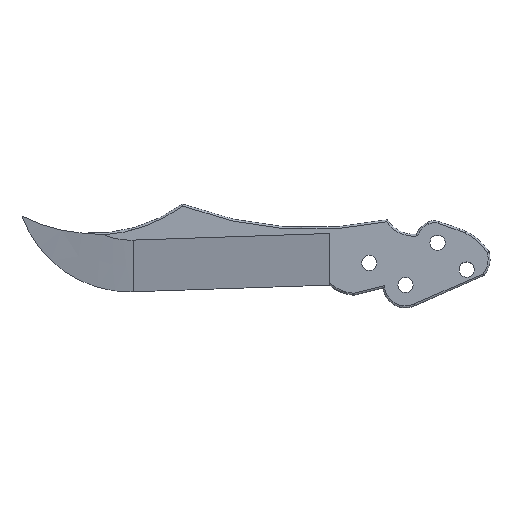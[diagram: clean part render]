
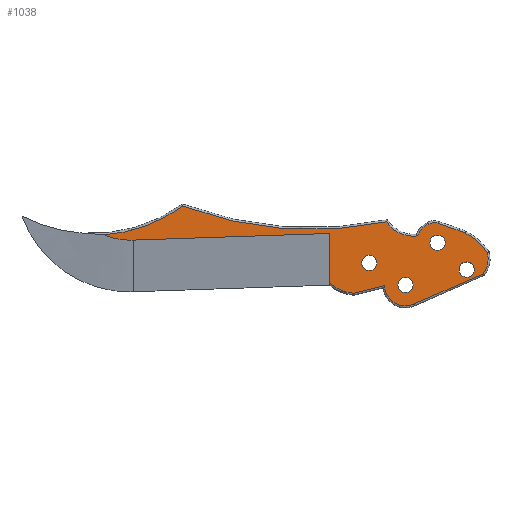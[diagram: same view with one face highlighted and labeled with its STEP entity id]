
A CAD part, top view. The second image highlights one B-rep face of the part: STEP entity #1038.
In plain terms, the highlighted planar face has unit normal (0, 0, 1).
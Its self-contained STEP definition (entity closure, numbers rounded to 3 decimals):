
#21=FACE_BOUND('',#314,.T.);
#22=FACE_BOUND('',#315,.T.);
#23=FACE_BOUND('',#316,.T.);
#24=FACE_BOUND('',#317,.T.);
#34=PLANE('',#1214);
#76=LINE('',#1878,#125);
#77=LINE('',#1889,#126);
#78=LINE('',#1921,#127);
#79=LINE('',#1924,#128);
#83=LINE('',#1958,#132);
#89=LINE('',#1993,#138);
#125=VECTOR('',#1444,10.);
#126=VECTOR('',#1461,10.);
#127=VECTOR('',#1488,10.);
#128=VECTOR('',#1491,10.);
#132=VECTOR('',#1525,10.);
#138=VECTOR('',#1549,10.);
#240=FACE_OUTER_BOUND('',#313,.T.);
#313=EDGE_LOOP('',(#932,#933,#934,#935,#936,#937,#938,#939,#940,#941,#942,
#943,#944,#945,#946,#947));
#314=EDGE_LOOP('',(#948));
#315=EDGE_LOOP('',(#949));
#316=EDGE_LOOP('',(#950));
#317=EDGE_LOOP('',(#951));
#370=CIRCLE('',#1148,40.5);
#373=CIRCLE('',#1152,95.5);
#374=CIRCLE('',#1154,8.5);
#378=CIRCLE('',#1160,3.417);
#379=CIRCLE('',#1162,5.5);
#384=CIRCLE('',#1169,14.5);
#387=CIRCLE('',#1173,6.5);
#389=CIRCLE('',#1176,5.5);
#394=CIRCLE('',#1188,10.5);
#402=CIRCLE('',#1202,16.425);
#403=CIRCLE('',#1207,2.);
#404=CIRCLE('',#1209,2.);
#405=CIRCLE('',#1211,2.);
#406=CIRCLE('',#1213,2.);
#472=VERTEX_POINT('',#1824);
#473=VERTEX_POINT('',#1835);
#474=VERTEX_POINT('',#1840);
#475=VERTEX_POINT('',#1857);
#476=VERTEX_POINT('',#1874);
#477=VERTEX_POINT('',#1876);
#478=VERTEX_POINT('',#1880);
#479=VERTEX_POINT('',#1886);
#480=VERTEX_POINT('',#1891);
#481=VERTEX_POINT('',#1896);
#482=VERTEX_POINT('',#1901);
#483=VERTEX_POINT('',#1903);
#484=VERTEX_POINT('',#1923);
#485=VERTEX_POINT('',#1931);
#489=VERTEX_POINT('',#1957);
#497=VERTEX_POINT('',#1989);
#498=VERTEX_POINT('',#1999);
#499=VERTEX_POINT('',#2003);
#500=VERTEX_POINT('',#2007);
#501=VERTEX_POINT('',#2011);
#591=EDGE_CURVE('',#472,#473,#370,.T.);
#594=EDGE_CURVE('',#473,#474,#373,.T.);
#596=EDGE_CURVE('',#474,#475,#374,.T.);
#600=EDGE_CURVE('',#477,#476,#76,.T.);
#602=EDGE_CURVE('',#478,#477,#378,.T.);
#603=EDGE_CURVE('',#475,#478,#379,.T.);
#606=EDGE_CURVE('',#476,#479,#77,.T.);
#609=EDGE_CURVE('',#479,#480,#384,.T.);
#612=EDGE_CURVE('',#480,#481,#387,.T.);
#614=EDGE_CURVE('',#482,#483,#389,.T.);
#617=EDGE_CURVE('',#481,#482,#78,.T.);
#618=EDGE_CURVE('',#483,#484,#79,.T.);
#623=EDGE_CURVE('',#484,#485,#394,.T.);
#628=EDGE_CURVE('',#489,#485,#83,.T.);
#640=EDGE_CURVE('',#472,#497,#402,.T.);
#641=EDGE_CURVE('',#497,#489,#89,.T.);
#644=EDGE_CURVE('',#498,#498,#403,.T.);
#646=EDGE_CURVE('',#499,#499,#404,.T.);
#648=EDGE_CURVE('',#500,#500,#405,.T.);
#650=EDGE_CURVE('',#501,#501,#406,.T.);
#932=ORIENTED_EDGE('',*,*,#591,.F.);
#933=ORIENTED_EDGE('',*,*,#640,.T.);
#934=ORIENTED_EDGE('',*,*,#641,.T.);
#935=ORIENTED_EDGE('',*,*,#628,.T.);
#936=ORIENTED_EDGE('',*,*,#623,.F.);
#937=ORIENTED_EDGE('',*,*,#618,.F.);
#938=ORIENTED_EDGE('',*,*,#614,.F.);
#939=ORIENTED_EDGE('',*,*,#617,.F.);
#940=ORIENTED_EDGE('',*,*,#612,.F.);
#941=ORIENTED_EDGE('',*,*,#609,.F.);
#942=ORIENTED_EDGE('',*,*,#606,.F.);
#943=ORIENTED_EDGE('',*,*,#600,.F.);
#944=ORIENTED_EDGE('',*,*,#602,.F.);
#945=ORIENTED_EDGE('',*,*,#603,.F.);
#946=ORIENTED_EDGE('',*,*,#596,.F.);
#947=ORIENTED_EDGE('',*,*,#594,.F.);
#948=ORIENTED_EDGE('',*,*,#650,.T.);
#949=ORIENTED_EDGE('',*,*,#648,.T.);
#950=ORIENTED_EDGE('',*,*,#646,.T.);
#951=ORIENTED_EDGE('',*,*,#644,.T.);
#1038=ADVANCED_FACE('',(#240,#21,#22,#23,#24),#34,.T.);
#1148=AXIS2_PLACEMENT_3D('',#1836,#1424,#1425);
#1152=AXIS2_PLACEMENT_3D('',#1841,#1432,#1433);
#1154=AXIS2_PLACEMENT_3D('',#1858,#1436,#1437);
#1160=AXIS2_PLACEMENT_3D('',#1882,#1449,#1450);
#1162=AXIS2_PLACEMENT_3D('',#1884,#1453,#1454);
#1169=AXIS2_PLACEMENT_3D('',#1894,#1468,#1469);
#1173=AXIS2_PLACEMENT_3D('',#1899,#1476,#1477);
#1176=AXIS2_PLACEMENT_3D('',#1904,#1482,#1483);
#1188=AXIS2_PLACEMENT_3D('',#1946,#1508,#1509);
#1202=AXIS2_PLACEMENT_3D('',#1991,#1545,#1546);
#1207=AXIS2_PLACEMENT_3D('',#2000,#1558,#1559);
#1209=AXIS2_PLACEMENT_3D('',#2004,#1563,#1564);
#1211=AXIS2_PLACEMENT_3D('',#2008,#1568,#1569);
#1213=AXIS2_PLACEMENT_3D('',#2012,#1573,#1574);
#1214=AXIS2_PLACEMENT_3D('',#2014,#1576,#1577);
#1424=DIRECTION('center_axis',(0.,0.,1.));
#1425=DIRECTION('ref_axis',(0.334,-0.943,0.));
#1432=DIRECTION('center_axis',(0.,0.,1.));
#1433=DIRECTION('ref_axis',(-0.075,-0.997,0.));
#1436=DIRECTION('center_axis',(0.,0.,1.));
#1437=DIRECTION('ref_axis',(-0.446,-0.895,0.));
#1444=DIRECTION('',(0.946,-0.326,0.));
#1449=DIRECTION('center_axis',(0.,0.,-1.));
#1450=DIRECTION('ref_axis',(-0.065,0.998,0.));
#1453=DIRECTION('center_axis',(0.,0.,-1.));
#1454=DIRECTION('ref_axis',(-0.732,0.681,0.));
#1461=DIRECTION('',(0.926,-0.377,0.));
#1468=DIRECTION('center_axis',(0.,0.,-1.));
#1469=DIRECTION('ref_axis',(0.656,0.755,0.));
#1476=DIRECTION('center_axis',(0.,0.,-1.));
#1477=DIRECTION('ref_axis',(0.982,-0.191,0.));
#1482=DIRECTION('center_axis',(0.,0.,-1.));
#1483=DIRECTION('ref_axis',(-0.491,-0.871,0.));
#1488=DIRECTION('',(-0.916,-0.402,0.));
#1491=DIRECTION('',(-0.971,-0.238,0.));
#1508=DIRECTION('center_axis',(0.,0.,-1.));
#1509=DIRECTION('ref_axis',(-0.388,-0.921,0.));
#1525=DIRECTION('',(0.,-1.,0.));
#1545=DIRECTION('center_axis',(0.,0.,1.));
#1546=DIRECTION('ref_axis',(0.062,-0.998,0.));
#1549=DIRECTION('',(0.999,0.034,0.));
#1558=DIRECTION('center_axis',(0.,0.,-1.));
#1559=DIRECTION('ref_axis',(-1.,0.,0.));
#1563=DIRECTION('center_axis',(0.,0.,-1.));
#1564=DIRECTION('ref_axis',(-1.,0.,0.));
#1568=DIRECTION('center_axis',(0.,0.,-1.));
#1569=DIRECTION('ref_axis',(-1.,0.,0.));
#1573=DIRECTION('center_axis',(0.,0.,-1.));
#1574=DIRECTION('ref_axis',(-1.,0.,0.));
#1576=DIRECTION('center_axis',(0.,0.,1.));
#1577=DIRECTION('ref_axis',(1.,0.,0.));
#1824=CARTESIAN_POINT('',(42.428,-100.855,2.5));
#1835=CARTESIAN_POINT('',(63.12,-93.261,2.5));
#1836=CARTESIAN_POINT('Origin',(39.346,-60.473,2.5));
#1840=CARTESIAN_POINT('',(116.787,-97.415,2.5));
#1841=CARTESIAN_POINT('Origin',(97.025,-3.982,2.5));
#1857=CARTESIAN_POINT('',(125.008,-101.119,2.5));
#1858=CARTESIAN_POINT('Origin',(123.857,-92.697,2.5));
#1874=CARTESIAN_POINT('',(135.887,-99.723,2.5));
#1876=CARTESIAN_POINT('',(130.389,-97.83,2.5));
#1878=CARTESIAN_POINT('',(113.015,-91.847,2.5));
#1880=CARTESIAN_POINT('',(127.757,-98.,2.5));
#1882=CARTESIAN_POINT('Origin',(129.276,-101.061,2.5));
#1884=CARTESIAN_POINT('Origin',(130.203,-102.927,2.5));
#1886=CARTESIAN_POINT('',(137.373,-100.327,2.5));
#1889=CARTESIAN_POINT('',(114.851,-91.173,2.5));
#1891=CARTESIAN_POINT('',(143.299,-105.479,2.5));
#1894=CARTESIAN_POINT('Origin',(131.178,-113.437,2.5));
#1896=CARTESIAN_POINT('',(142.209,-111.094,2.5));
#1899=CARTESIAN_POINT('Origin',(137.024,-107.174,2.5));
#1901=CARTESIAN_POINT('',(123.982,-119.098,2.5));
#1903=CARTESIAN_POINT('',(116.273,-114.221,2.5));
#1904=CARTESIAN_POINT('Origin',(121.771,-114.062,2.5));
#1921=CARTESIAN_POINT('',(108.899,-125.721,2.5));
#1923=CARTESIAN_POINT('',(108.093,-116.227,2.5));
#1924=CARTESIAN_POINT('',(97.081,-118.927,2.5));
#1931=CARTESIAN_POINT('',(101.735,-113.387,2.5));
#1946=CARTESIAN_POINT('Origin',(108.954,-105.762,2.5));
#1957=CARTESIAN_POINT('',(101.735,-100.473,2.5));
#1958=CARTESIAN_POINT('',(101.735,-106.823,2.5));
#1989=CARTESIAN_POINT('',(50.069,-102.22,2.5));
#1991=CARTESIAN_POINT('Origin',(49.055,-85.827,2.5));
#1993=CARTESIAN_POINT('',(91.985,-100.803,2.5));
#1999=CARTESIAN_POINT('',(132.203,-102.927,2.5));
#2000=CARTESIAN_POINT('Origin',(130.203,-102.927,2.5));
#2003=CARTESIAN_POINT('',(114.243,-108.222,2.5));
#2004=CARTESIAN_POINT('Origin',(112.243,-108.222,2.5));
#2007=CARTESIAN_POINT('',(139.891,-109.981,2.5));
#2008=CARTESIAN_POINT('Origin',(137.891,-109.981,2.5));
#2011=CARTESIAN_POINT('',(123.771,-114.062,2.5));
#2012=CARTESIAN_POINT('Origin',(121.771,-114.062,2.5));
#2014=CARTESIAN_POINT('Origin',(82.413,-106.379,2.5));
